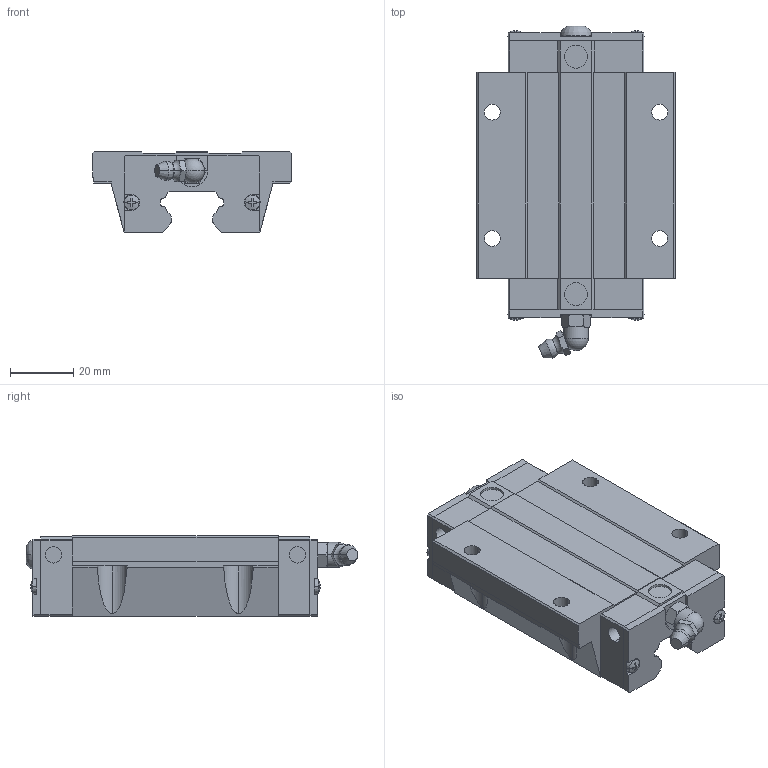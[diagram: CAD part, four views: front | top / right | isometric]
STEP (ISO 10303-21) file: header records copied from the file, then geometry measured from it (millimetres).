
FILE_DESCRIPTION(('FreeCAD Model'),'2;1');
FILE_NAME('Open CASCADE Shape Model','2021-05-03T09:41:12',('Author'),( ''),'Open CASCADE STEP processor 7.5','FreeCAD','Unknown');
FILE_SCHEMA(('AUTOMOTIVE_DESIGN { 1 0 10303 214 1 1 1 1 }'));
Length unit declared in the file: millimetre
Products named in the file (1): HGW20HC Z0 H SS
Bounding box: 63 x 105.11 x 25.4 mm (x, y, z)
Volume: 92935.2 mm3; surface area: 21458 mm2
Topology: 1 solids, 5 shells, 364 faces, 987 edges, 641 vertices
Faces by surface type: plane 222, cylinder 84, cone 38, torus 14, revolution 4, sphere 2
Entity records: 29113 total; most frequent: CARTESIAN_POINT 8761, DIRECTION 3470, LINE 2158, VECTOR 2158, ORIENTED_EDGE 1970, PCURVE 1970, DEFINITIONAL_REPRESENTATION 1970, EDGE_CURVE 985
